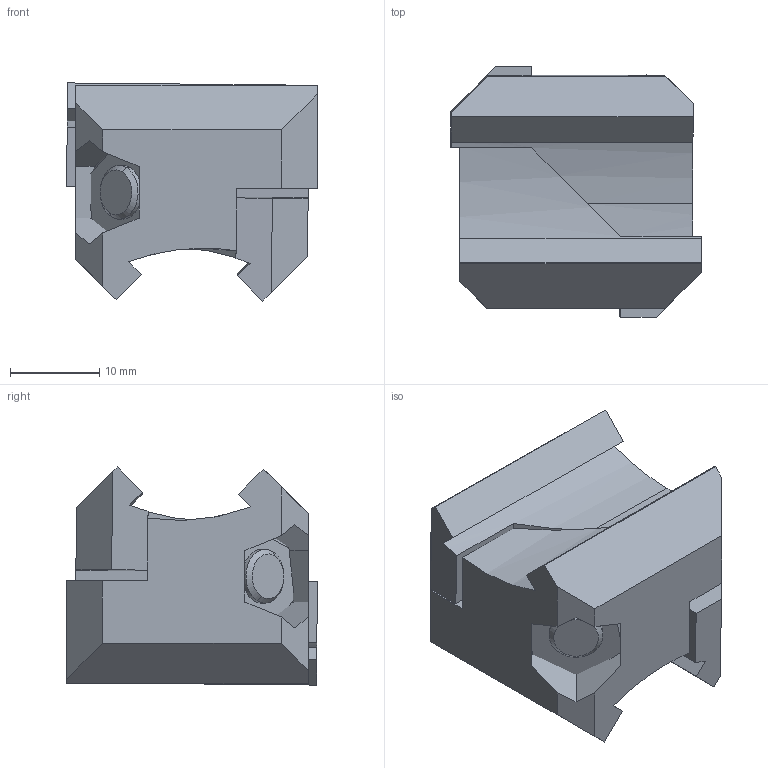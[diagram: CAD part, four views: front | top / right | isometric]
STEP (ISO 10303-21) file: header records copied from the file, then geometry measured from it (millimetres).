
FILE_DESCRIPTION (( 'STEP AP203' ), '1' );
FILE_NAME ('1006.STEP', '2016-05-29T11:44:22', ( 'RosInstal-MKM' ), ( '' ), 'SwSTEP 2.0', 'SolidWorks 2014', '' );
FILE_SCHEMA (( 'CONFIG_CONTROL_DESIGN' ));
Length unit declared in the file: millimetre
Products named in the file (4): 櫻蠉錪2; 鎔艜4; ãàéêà4; 1006
Assembly tree (4 placements, depth 2):
  1006
    櫻蠉錪2  x2
    鎔艜4
    ãàéêà4
Bounding box: 28.03 x 28.03 x 24.38 mm (x, y, z)
Volume: 10386.2 mm3; surface area: 6473.5 mm2
Topology: 4 solids, 4 shells, 142 faces, 350 edges, 212 vertices
Faces by surface type: plane 88, cylinder 35, torus 11, sphere 6, cone 2
Entity records: 3466 total; most frequent: DIRECTION 555, CARTESIAN_POINT 524, ORIENTED_EDGE 500, EDGE_CURVE 250, AXIS2_PLACEMENT_3D 193, VECTOR 169, LINE 169, VERTEX_POINT 150
